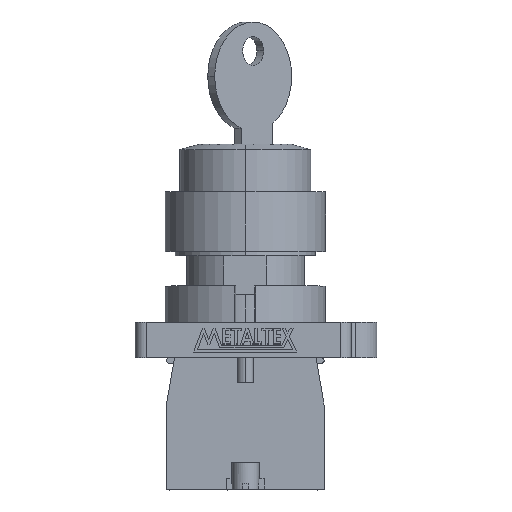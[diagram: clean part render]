
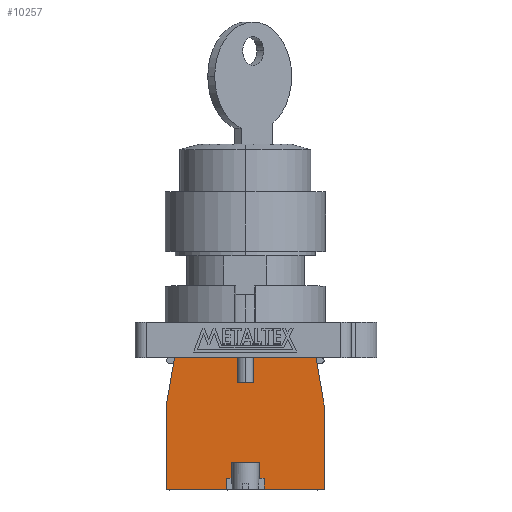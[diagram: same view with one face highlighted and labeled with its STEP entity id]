
A CAD part, top view. The second image highlights one B-rep face of the part: STEP entity #10257.
In plain terms, the highlighted planar face has unit normal (0, 0, 1).
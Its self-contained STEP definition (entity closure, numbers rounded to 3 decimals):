
#632 = EDGE_CURVE ( 'NONE', #4704, #4703, #2117, .T. ) ;
#688 = EDGE_CURVE ( 'NONE', #4658, #4659, #2581, .T. ) ;
#691 = EDGE_CURVE ( 'NONE', #4663, #4662, #2590, .T. ) ;
#703 = EDGE_CURVE ( 'NONE', #4649, #4591, #2626, .T. ) ;
#707 = EDGE_CURVE ( 'NONE', #4703, #4648, #2638, .T. ) ;
#741 = EDGE_CURVE ( 'NONE', #4619, #4618, #2740, .T. ) ;
#747 = EDGE_CURVE ( 'NONE', #4616, #4614, #2758, .T. ) ;
#752 = EDGE_CURVE ( 'NONE', #4610, #4663, #2773, .T. ) ;
#805 = EDGE_CURVE ( 'NONE', #4659, #4704, #2932, .T. ) ;
#809 = EDGE_CURVE ( 'NONE', #4591, #4610, #2944, .T. ) ;
#810 = EDGE_CURVE ( 'NONE', #4614, #4649, #2947, .T. ) ;
#811 = EDGE_CURVE ( 'NONE', #4662, #4569, #2950, .T. ) ;
#812 = EDGE_CURVE ( 'NONE', #4569, #4570, #2953, .T. ) ;
#813 = EDGE_CURVE ( 'NONE', #4570, #4618, #2956, .T. ) ;
#814 = EDGE_CURVE ( 'NONE', #4571, #4619, #2959, .T. ) ;
#815 = EDGE_CURVE ( 'NONE', #4571, #4572, #2962, .T. ) ;
#816 = EDGE_CURVE ( 'NONE', #4658, #4572, #2965, .T. ) ;
#817 = EDGE_CURVE ( 'NONE', #4616, #4648, #2968, .T. ) ;
#2117 = LINE ( 'NONE', #2118, #9775 ) ;
#2118 = CARTESIAN_POINT ( 'NONE',  ( 14.5, 15.5, 7.45 ) ) ;
#2119 = DIRECTION ( 'NONE',  ( -0.17, 0.985, 0. ) ) ;
#2581 = LINE ( 'NONE', #2582, #9882 ) ;
#2582 = CARTESIAN_POINT ( 'NONE',  ( -14.5, 0., 7.45 ) ) ;
#2583 = DIRECTION ( 'NONE',  ( 1., 0., 0. ) ) ;
#2590 = LINE ( 'NONE', #2591, #9180 ) ;
#2591 = CARTESIAN_POINT ( 'NONE',  ( -14.5, 0., 7.45 ) ) ;
#2592 = DIRECTION ( 'NONE',  ( 1., 0., 0. ) ) ;
#2626 = LINE ( 'NONE', #2627, #9919 ) ;
#2627 = CARTESIAN_POINT ( 'NONE',  ( 13., 24.2, 7.45 ) ) ;
#2628 = DIRECTION ( 'NONE',  ( -1., 0., 0. ) ) ;
#2638 = LINE ( 'NONE', #2639, #9642 ) ;
#2639 = CARTESIAN_POINT ( 'NONE',  ( 13., 24.2, 7.45 ) ) ;
#2640 = DIRECTION ( 'NONE',  ( -1., 0., 0. ) ) ;
#2740 = LINE ( 'NONE', #2741, #9089 ) ;
#2741 = CARTESIAN_POINT ( 'NONE',  ( 0., 5., 7.45 ) ) ;
#2742 = DIRECTION ( 'NONE',  ( -1., 0., 0. ) ) ;
#2758 = LINE ( 'NONE', #2759, #9072 ) ;
#2759 = CARTESIAN_POINT ( 'NONE',  ( 0., 19.6, 7.45 ) ) ;
#2760 = DIRECTION ( 'NONE',  ( -1., 0., 0. ) ) ;
#2773 = LINE ( 'NONE', #2774, #9592 ) ;
#2774 = CARTESIAN_POINT ( 'NONE',  ( -14.5, 15.5, 7.45 ) ) ;
#2775 = DIRECTION ( 'NONE',  ( 0., -1., 0. ) ) ;
#2932 = LINE ( 'NONE', #2933, #9842 ) ;
#2933 = CARTESIAN_POINT ( 'NONE',  ( 14.5, 0., 7.45 ) ) ;
#2934 = DIRECTION ( 'NONE',  ( 0., 1., 0. ) ) ;
#2944 = LINE ( 'NONE', #2945, #9817 ) ;
#2945 = CARTESIAN_POINT ( 'NONE',  ( -13., 24.2, 7.45 ) ) ;
#2946 = DIRECTION ( 'NONE',  ( -0.17, -0.985, 0. ) ) ;
#2947 = LINE ( 'NONE', #2948, #9034 ) ;
#2948 = CARTESIAN_POINT ( 'NONE',  ( -1.5, 19.6, 7.45 ) ) ;
#2949 = DIRECTION ( 'NONE',  ( 0., 1., 0. ) ) ;
#2950 = LINE ( 'NONE', #2951, #9883 ) ;
#2951 = CARTESIAN_POINT ( 'NONE',  ( -3.5, 0., 7.45 ) ) ;
#2952 = DIRECTION ( 'NONE',  ( 0., 1., 0. ) ) ;
#2953 = LINE ( 'NONE', #2954, #9825 ) ;
#2954 = CARTESIAN_POINT ( 'NONE',  ( 0., 2., 7.45 ) ) ;
#2955 = DIRECTION ( 'NONE',  ( 1., 0., 0. ) ) ;
#2956 = LINE ( 'NONE', #2957, #9865 ) ;
#2957 = CARTESIAN_POINT ( 'NONE',  ( -2.6, 0., 7.45 ) ) ;
#2958 = DIRECTION ( 'NONE',  ( 0., 1., 0. ) ) ;
#2959 = LINE ( 'NONE', #2960, #9755 ) ;
#2960 = CARTESIAN_POINT ( 'NONE',  ( 2.6, 0., 7.45 ) ) ;
#2961 = DIRECTION ( 'NONE',  ( 0., 1., 0. ) ) ;
#2962 = LINE ( 'NONE', #2963, #9857 ) ;
#2963 = CARTESIAN_POINT ( 'NONE',  ( 0., 2., 7.45 ) ) ;
#2964 = DIRECTION ( 'NONE',  ( 1., 0., 0. ) ) ;
#2965 = LINE ( 'NONE', #2966, #9060 ) ;
#2966 = CARTESIAN_POINT ( 'NONE',  ( 3.5, 0., 7.45 ) ) ;
#2967 = DIRECTION ( 'NONE',  ( 0., 1., 0. ) ) ;
#2968 = LINE ( 'NONE', #2969, #9793 ) ;
#2969 = CARTESIAN_POINT ( 'NONE',  ( 1.5, 19.6, 7.45 ) ) ;
#2970 = DIRECTION ( 'NONE',  ( 0., 1., 0. ) ) ;
#3057 = EDGE_LOOP ( 'NONE', ( #5014, #5012, #5015, #5013, #5011, #5010, #5008, #5009, #5007, #5006, #5004, #5005, #5003, #5001, #5002, #5000, #4999, #4997 ) ) ;
#4569 = VERTEX_POINT ( 'NONE', #13020 ) ;
#4570 = VERTEX_POINT ( 'NONE', #13021 ) ;
#4571 = VERTEX_POINT ( 'NONE', #13023 ) ;
#4572 = VERTEX_POINT ( 'NONE', #13024 ) ;
#4591 = VERTEX_POINT ( 'NONE', #13049 ) ;
#4610 = VERTEX_POINT ( 'NONE', #13074 ) ;
#4614 = VERTEX_POINT ( 'NONE', #13080 ) ;
#4616 = VERTEX_POINT ( 'NONE', #13082 ) ;
#4618 = VERTEX_POINT ( 'NONE', #13085 ) ;
#4619 = VERTEX_POINT ( 'NONE', #13086 ) ;
#4648 = VERTEX_POINT ( 'NONE', #13125 ) ;
#4649 = VERTEX_POINT ( 'NONE', #13126 ) ;
#4658 = VERTEX_POINT ( 'NONE', #13139 ) ;
#4659 = VERTEX_POINT ( 'NONE', #13141 ) ;
#4662 = VERTEX_POINT ( 'NONE', #13146 ) ;
#4663 = VERTEX_POINT ( 'NONE', #13148 ) ;
#4703 = VERTEX_POINT ( 'NONE', #13205 ) ;
#4704 = VERTEX_POINT ( 'NONE', #13206 ) ;
#4997 = ORIENTED_EDGE ( 'NONE', *, *, #747, .T. ) ;
#4999 = ORIENTED_EDGE ( 'NONE', *, *, #817, .F. ) ;
#5000 = ORIENTED_EDGE ( 'NONE', *, *, #707, .T. ) ;
#5001 = ORIENTED_EDGE ( 'NONE', *, *, #805, .T. ) ;
#5002 = ORIENTED_EDGE ( 'NONE', *, *, #632, .T. ) ;
#5003 = ORIENTED_EDGE ( 'NONE', *, *, #688, .T. ) ;
#5004 = ORIENTED_EDGE ( 'NONE', *, *, #815, .T. ) ;
#5005 = ORIENTED_EDGE ( 'NONE', *, *, #816, .F. ) ;
#5006 = ORIENTED_EDGE ( 'NONE', *, *, #814, .F. ) ;
#5007 = ORIENTED_EDGE ( 'NONE', *, *, #741, .F. ) ;
#5008 = ORIENTED_EDGE ( 'NONE', *, *, #812, .T. ) ;
#5009 = ORIENTED_EDGE ( 'NONE', *, *, #813, .T. ) ;
#5010 = ORIENTED_EDGE ( 'NONE', *, *, #811, .T. ) ;
#5011 = ORIENTED_EDGE ( 'NONE', *, *, #691, .T. ) ;
#5012 = ORIENTED_EDGE ( 'NONE', *, *, #703, .T. ) ;
#5013 = ORIENTED_EDGE ( 'NONE', *, *, #752, .T. ) ;
#5014 = ORIENTED_EDGE ( 'NONE', *, *, #810, .T. ) ;
#5015 = ORIENTED_EDGE ( 'NONE', *, *, #809, .T. ) ;
#9034 = VECTOR ( 'NONE', #2949, 1000. ) ;
#9060 = VECTOR ( 'NONE', #2967, 1000. ) ;
#9072 = VECTOR ( 'NONE', #2760, 1000. ) ;
#9089 = VECTOR ( 'NONE', #2742, 1000. ) ;
#9180 = VECTOR ( 'NONE', #2592, 1000. ) ;
#9592 = VECTOR ( 'NONE', #2775, 1000. ) ;
#9642 = VECTOR ( 'NONE', #2640, 1000. ) ;
#9755 = VECTOR ( 'NONE', #2961, 1000. ) ;
#9775 = VECTOR ( 'NONE', #2119, 1000. ) ;
#9793 = VECTOR ( 'NONE', #2970, 1000. ) ;
#9817 = VECTOR ( 'NONE', #2946, 1000. ) ;
#9825 = VECTOR ( 'NONE', #2955, 1000. ) ;
#9842 = VECTOR ( 'NONE', #2934, 1000. ) ;
#9857 = VECTOR ( 'NONE', #2964, 1000. ) ;
#9865 = VECTOR ( 'NONE', #2958, 1000. ) ;
#9882 = VECTOR ( 'NONE', #2583, 1000. ) ;
#9883 = VECTOR ( 'NONE', #2952, 1000. ) ;
#9919 = VECTOR ( 'NONE', #2628, 1000. ) ;
#10257 = ADVANCED_FACE ( 'NONE', ( #11598 ), #11149, .T. ) ;
#11149 = PLANE ( 'NONE',  #11591 ) ;
#11150 = CARTESIAN_POINT ( 'NONE',  ( 0., 0., 7.45 ) ) ;
#11151 = DIRECTION ( 'NONE',  ( 0., 0., 1. ) ) ;
#11152 = DIRECTION ( 'NONE',  ( 1., 0., 0. ) ) ;
#11591 = AXIS2_PLACEMENT_3D ( 'NONE', #11150, #11151, #11152 ) ;
#11598 = FACE_OUTER_BOUND ( 'NONE', #3057, .T. ) ;
#13020 = CARTESIAN_POINT ( 'NONE',  ( -3.5, 2., 7.45 ) ) ;
#13021 = CARTESIAN_POINT ( 'NONE',  ( -2.6, 2., 7.45 ) ) ;
#13023 = CARTESIAN_POINT ( 'NONE',  ( 2.6, 2., 7.45 ) ) ;
#13024 = CARTESIAN_POINT ( 'NONE',  ( 3.5, 2., 7.45 ) ) ;
#13049 = CARTESIAN_POINT ( 'NONE',  ( -13., 24.2, 7.45 ) ) ;
#13074 = CARTESIAN_POINT ( 'NONE',  ( -14.5, 15.5, 7.45 ) ) ;
#13080 = CARTESIAN_POINT ( 'NONE',  ( -1.5, 19.6, 7.45 ) ) ;
#13082 = CARTESIAN_POINT ( 'NONE',  ( 1.5, 19.6, 7.45 ) ) ;
#13085 = CARTESIAN_POINT ( 'NONE',  ( -2.6, 5., 7.45 ) ) ;
#13086 = CARTESIAN_POINT ( 'NONE',  ( 2.6, 5., 7.45 ) ) ;
#13125 = CARTESIAN_POINT ( 'NONE',  ( 1.5, 24.2, 7.45 ) ) ;
#13126 = CARTESIAN_POINT ( 'NONE',  ( -1.5, 24.2, 7.45 ) ) ;
#13139 = CARTESIAN_POINT ( 'NONE',  ( 3.5, 0., 7.45 ) ) ;
#13141 = CARTESIAN_POINT ( 'NONE',  ( 14.5, 0., 7.45 ) ) ;
#13146 = CARTESIAN_POINT ( 'NONE',  ( -3.5, 0., 7.45 ) ) ;
#13148 = CARTESIAN_POINT ( 'NONE',  ( -14.5, 0., 7.45 ) ) ;
#13205 = CARTESIAN_POINT ( 'NONE',  ( 13., 24.2, 7.45 ) ) ;
#13206 = CARTESIAN_POINT ( 'NONE',  ( 14.5, 15.5, 7.45 ) ) ;
